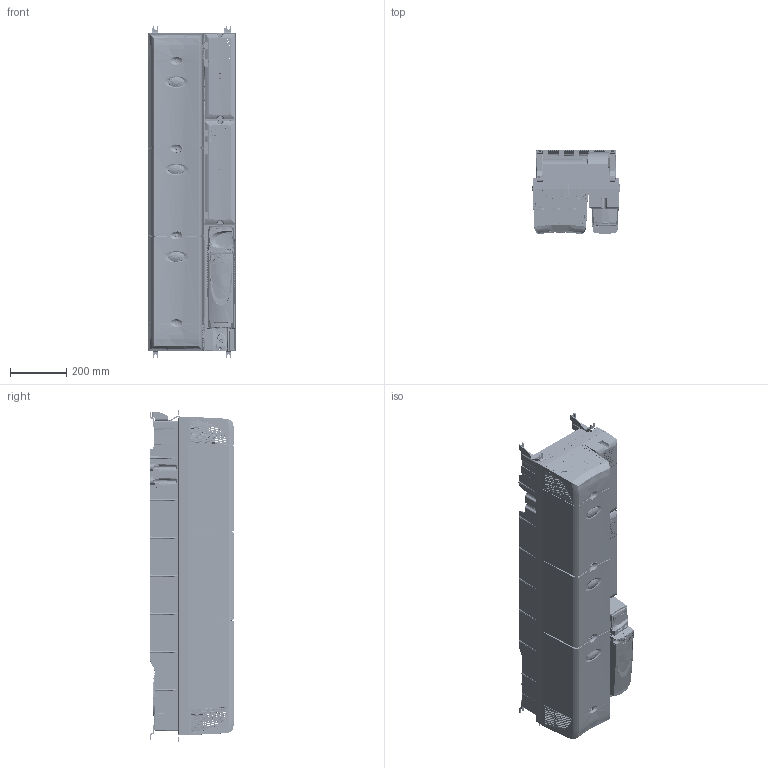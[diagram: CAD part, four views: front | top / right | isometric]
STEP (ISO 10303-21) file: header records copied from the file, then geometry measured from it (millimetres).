
FILE_DESCRIPTION((''),'2;1');
FILE_NAME('SP6_WITH_TERM_COVERS_SW','2007-03-22T',('summne01'),(''),'PRO/ENGINEER BY PARAMETRIC TECHNOLOGY CORPORATION, 2006460','PRO/ENGINEER BY PARAMETRIC TECHNOLOGY CORPORATION, 2006460','');
FILE_SCHEMA(('CONFIG_CONTROL_DESIGN'));
Products named in the file (1): SP6_WITH_TERM_COVERS_SW
Bounding box: 310.14 x 298 x 1179.58 mm (x, y, z)
Surface area: 4199064.9 mm2 (no closed solid volume)
Topology: 0 solids, 1090 shells, 4656 faces, 33510 edges, 29429 vertices
Faces by surface type: plane 2058, cylinder 1001, bspline 757, cone 347, torus 322, revolution 85, extrusion 68, sphere 18
Entity records: 443059 total; most frequent: CARTESIAN_POINT 230305, ORIENTED_EDGE 39285, EDGE_CURVE 33505, DIRECTION 32043, VERTEX_POINT 29432, VECTOR 14582, LINE 14514, B_SPLINE_CURVE_WITH_KNOTS 14202
